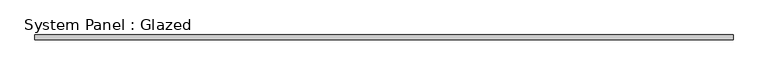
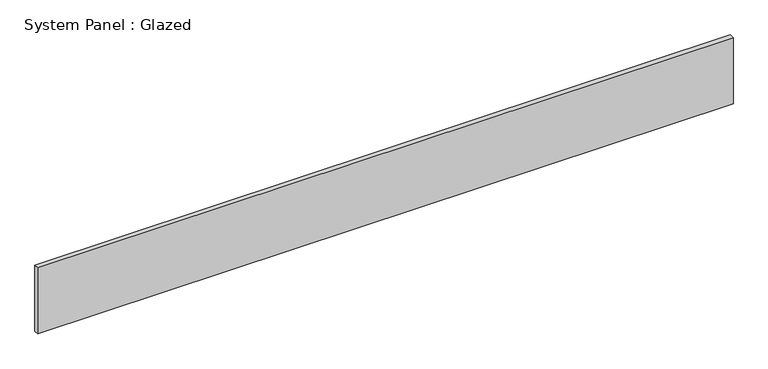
"""IFC4 building model written with IfcOpenShell, lengths in millimetres: plate geometry, System Panel : Glazed."""

from ifc_helpers import new_model, si_unit, origin, origin_with_axes, place, context, project, spatial, polyline, outline, extrude, source, transform, mapped, element, save


def system_panel_glazed_2e57b5d9(model_context):
    return source(origin(), model_context, "Body", "SweptSolid", [
        extrude(outline(polyline([(1862.2565445, 24.5), (-1862.2565445, 24.5), (-1862.2565445, 49.5), (1862.2565445, 49.5), (1862.2565445, 24.5)])), origin_with_axes(), (0.0, 0.0, 1.0), 373.4924443),
    ])


if __name__ == "__main__":
    model = new_model("IFC4")
    model_context = context("Model", 3, world=origin())
    ifc_project = project(units=[si_unit("LENGTHUNIT", "METRE", prefix="MILLI")], contexts=[model_context])
    site = spatial("IfcSite", under=ifc_project)
    building = spatial("IfcBuilding", under=site)
    placement = place(None, origin())
    system_panel_glazed_shape = system_panel_glazed_2e57b5d9(model_context)
    element("IfcPlate", 1, ObjectType="System Panel : Glazed", at=placement, inside=building, context=model_context, shape_type="MappedRepresentation", body=[
        mapped(system_panel_glazed_shape, transform((0.0, 0.0, 0.0), x_axis=(1.0, 0.0, 0.0), y_axis=(0.0, 1.0, 0.0), z_axis=(0.0, 0.0, 1.0))),
    ])
    save(model, "model.ifc")
